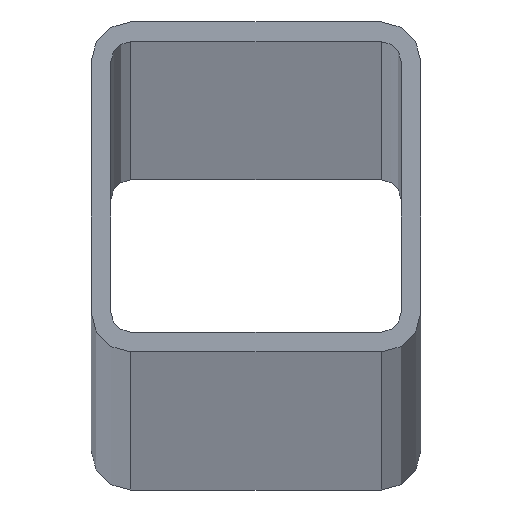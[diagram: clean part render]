
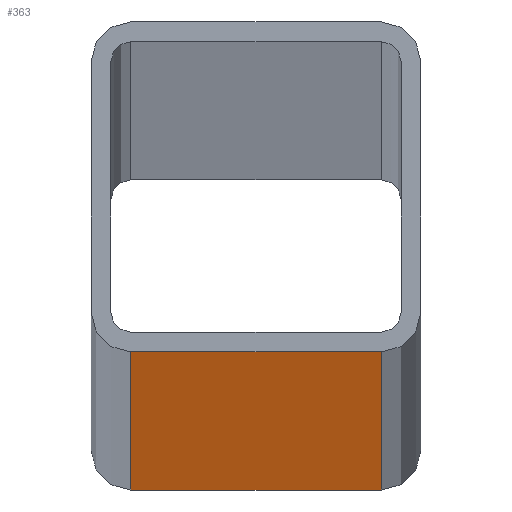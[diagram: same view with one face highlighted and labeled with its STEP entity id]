
A CAD part, top view. The second image highlights one B-rep face of the part: STEP entity #363.
In plain terms, the highlighted planar face has unit normal (0, -1, 0).
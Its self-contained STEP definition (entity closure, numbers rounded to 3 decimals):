
#2 = DIRECTION ( 'NONE',  ( 1., 0., 0. ) ) ;
#13 = LINE ( 'NONE', #214, #259 ) ;
#17 = EDGE_CURVE ( 'NONE', #353, #410, #13, .T. ) ;
#27 = VERTEX_POINT ( 'NONE', #304 ) ;
#44 = VERTEX_POINT ( 'NONE', #547 ) ;
#49 = CARTESIAN_POINT ( 'NONE',  ( -12.5, -12.5, 6000. ) ) ;
#106 = CARTESIAN_POINT ( 'NONE',  ( -12.5, -12.5, 6000. ) ) ;
#111 = FACE_OUTER_BOUND ( 'NONE', #428, .T. ) ;
#113 = DIRECTION ( 'NONE',  ( 0., 0., -1. ) ) ;
#123 = LINE ( 'NONE', #318, #380 ) ;
#137 = ORIENTED_EDGE ( 'NONE', *, *, #535, .T. ) ;
#139 = LINE ( 'NONE', #49, #513 ) ;
#189 = ORIENTED_EDGE ( 'NONE', *, *, #224, .F. ) ;
#206 = EDGE_CURVE ( 'NONE', #44, #27, #469, .T. ) ;
#214 = CARTESIAN_POINT ( 'NONE',  ( -9.5, -12.5, 6000. ) ) ;
#224 = EDGE_CURVE ( 'NONE', #353, #27, #139, .T. ) ;
#248 = ORIENTED_EDGE ( 'NONE', *, *, #206, .T. ) ;
#259 = VECTOR ( 'NONE', #113, 1000. ) ;
#304 = CARTESIAN_POINT ( 'NONE',  ( 9.5, -12.5, 6000. ) ) ;
#305 = DIRECTION ( 'NONE',  ( 0., 0., 1. ) ) ;
#318 = CARTESIAN_POINT ( 'NONE',  ( -12.5, -12.5, 0. ) ) ;
#330 = DIRECTION ( 'NONE',  ( 0., 0., 1. ) ) ;
#353 = VERTEX_POINT ( 'NONE', #578 ) ;
#361 = CARTESIAN_POINT ( 'NONE',  ( -9.5, -12.5, 0. ) ) ;
#363 = ADVANCED_FACE ( 'NONE', ( #111 ), #528, .F. ) ;
#380 = VECTOR ( 'NONE', #549, 1000. ) ;
#410 = VERTEX_POINT ( 'NONE', #361 ) ;
#428 = EDGE_LOOP ( 'NONE', ( #189, #586, #137, #248 ) ) ;
#436 = AXIS2_PLACEMENT_3D ( 'NONE', #106, #490, #305 ) ;
#469 = LINE ( 'NONE', #475, #485 ) ;
#475 = CARTESIAN_POINT ( 'NONE',  ( 9.5, -12.5, 6000. ) ) ;
#485 = VECTOR ( 'NONE', #330, 1000. ) ;
#490 = DIRECTION ( 'NONE',  ( 0., 1., 0. ) ) ;
#513 = VECTOR ( 'NONE', #2, 1000. ) ;
#528 = PLANE ( 'NONE',  #436 ) ;
#535 = EDGE_CURVE ( 'NONE', #410, #44, #123, .T. ) ;
#547 = CARTESIAN_POINT ( 'NONE',  ( 9.5, -12.5, 0. ) ) ;
#549 = DIRECTION ( 'NONE',  ( 1., 0., 0. ) ) ;
#578 = CARTESIAN_POINT ( 'NONE',  ( -9.5, -12.5, 6000. ) ) ;
#586 = ORIENTED_EDGE ( 'NONE', *, *, #17, .T. ) ;
